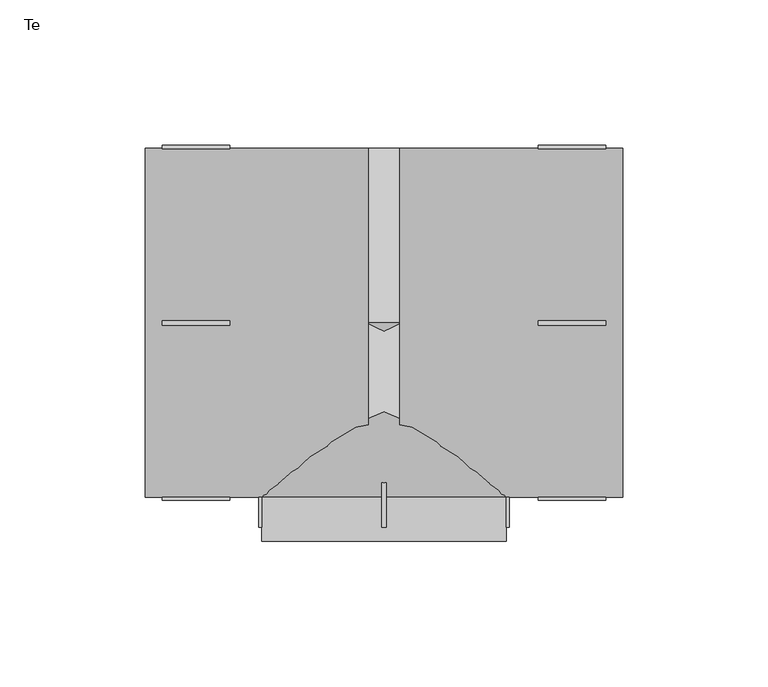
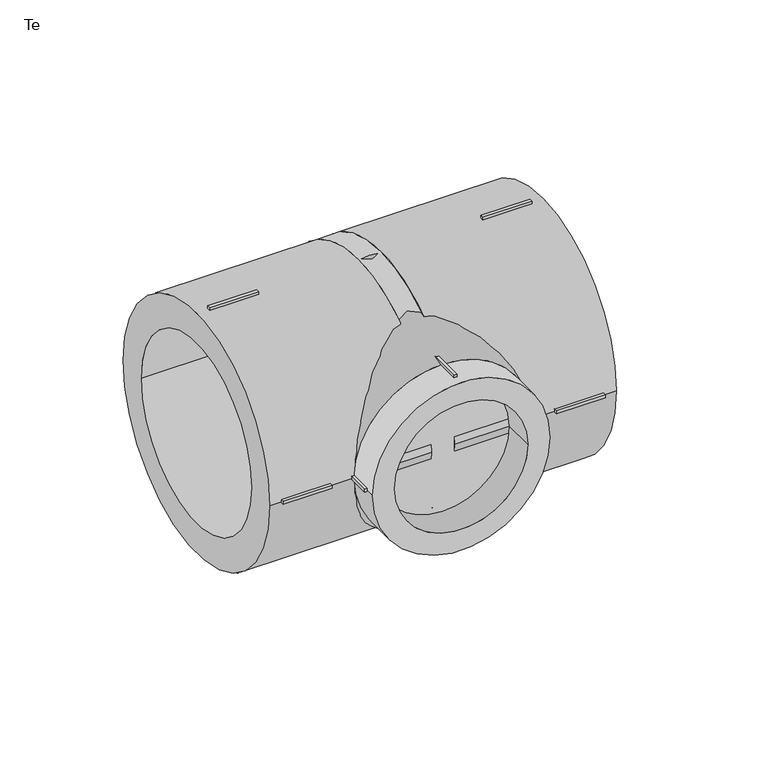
"""IFC4 building model written with IfcOpenShell, lengths in millimetres: pipe fitting geometry, EGB_VASEN_ PPR_Te WXR300_Te reducida WXR310 : Te."""

import ifcopenshell
import ifcopenshell.guid

model = None  # the IFC model being written
_history = None  # IfcOwnerHistory: only IFC2X3 demands one
_inside = {}  # id of a spatial element -> (the spatial element, [elements in it])
_under = {}  # id of a project, library or spatial element -> (it, [spatial elements below it])
_declared = {}  # id of a project -> (the project, [libraries it declares])
_typed = {}  # id of a type object -> (the type object, [elements of that type])
_made_of = {}  # id of a material, layer set ... -> (it, [elements and type objects made of it])


def new_model(schema):
    """Start an empty IFC model of exactly this schema.

    Asked for "IFC4X3", IfcOpenShell would pick the latest addendum, in which some entities
    have other attributes; the version numbers below select the first issue.
    IFC2X3 requires an IfcOwnerHistory on every rooted entity: one is made here for all.
    """
    global model, _history
    if schema == "IFC4X3":
        model = ifcopenshell.file(schema_version=(4, 3, 0, 0))
    else:
        model = ifcopenshell.file(schema=schema)
    _inside.clear()
    _under.clear()
    _declared.clear()
    _typed.clear()
    _made_of.clear()
    _history = None
    if model.schema == "IFC2X3":
        org = make("IfcOrganization", Name="unknown")
        user = make(
            "IfcPersonAndOrganization",
            ThePerson=make("IfcPerson", FamilyName="unknown"),
            TheOrganization=org,
        )
        app = make(
            "IfcApplication",
            ApplicationDeveloper=org,
            Version="unknown",
            ApplicationFullName="unknown",
            ApplicationIdentifier="unknown",
        )
        _history = make(
            "IfcOwnerHistory",
            OwningUser=user,
            OwningApplication=app,
            ChangeAction="ADDED",
            CreationDate=0,
        )
    return model


def make(cls, **values):
    """One entity of the class cls with the attributes given. An attribute that is None is left unset."""
    return model.create_entity(
        cls, **{name: value for name, value in values.items() if value is not None}
    )


def rooted(cls, **values):
    """An entity with a GlobalId (a new one), such as an element, a storey or a relation."""
    return make(cls, GlobalId=ifcopenshell.guid.new(), OwnerHistory=_history, **values)


def si_unit(unit_type, name, prefix=None):
    """IfcSIUnit, for example si_unit("LENGTHUNIT", "METRE", prefix="MILLI")."""
    return make("IfcSIUnit", UnitType=unit_type, Prefix=prefix, Name=name)


def assignment(units):
    """IfcUnitAssignment: the units of a project."""
    return None if units is None else make("IfcUnitAssignment", Units=units)


def point(xyz):
    """IfcCartesianPoint."""
    return None if xyz is None else make("IfcCartesianPoint", Coordinates=xyz)


def direction(xyz):
    """IfcDirection."""
    return None if xyz is None else make("IfcDirection", DirectionRatios=xyz)


def frame(location, z_axis=None, x_axis=None):
    """IfcAxis2Placement3D, a coordinate frame: its origin and axes. An axis left out is left unset."""
    return make(
        "IfcAxis2Placement3D",
        Location=point(location),
        Axis=direction(z_axis),
        RefDirection=direction(x_axis),
    )


def frame_2d(location, x_axis=None):
    """IfcAxis2Placement2D, a coordinate frame in the plane: its origin and x axis."""
    return make(
        "IfcAxis2Placement2D", Location=point(location), RefDirection=direction(x_axis)
    )


def origin():
    """The frame at (0, 0, 0) with its axes left unset."""
    return frame((0.0, 0.0, 0.0))


def origin_2d():
    """The frame at (0, 0) in the plane with its x axis left unset."""
    return frame_2d((0.0, 0.0))


def place(relative_to, where):
    """IfcLocalPlacement: puts the frame where relative to a parent placement (None: the world)."""
    return make(
        "IfcLocalPlacement", PlacementRelTo=relative_to, RelativePlacement=where
    )


def context(
    kind, dimensions, precision=None, world=None, true_north=None, identifier=None
):
    """IfcGeometricRepresentationContext, for example the 3D "Model" context."""
    return make(
        "IfcGeometricRepresentationContext",
        ContextIdentifier=identifier,
        ContextType=kind,
        CoordinateSpaceDimension=dimensions,
        Precision=precision,
        WorldCoordinateSystem=world,
        TrueNorth=true_north,
    )


def project(units=None, contexts=None):
    """IfcProject with its units and contexts."""
    return rooted(
        "IfcProject",
        Name="project",
        RepresentationContexts=contexts,
        UnitsInContext=assignment(units),
    )


def spatial(cls, under=None, at=None, **own):
    """A site, building, storey or space (cls), placed at a placement, below another one or the project."""
    s = rooted(cls, ObjectPlacement=at, **own)
    if under is not None:
        _under.setdefault(under.id(), (under, []))[1].append(s)
    return s


def polyline(points):
    """IfcPolyline through the points."""
    return make("IfcPolyline", Points=[point(p) for p in points])


def circle_curve(where, radius):
    """IfcCircle in the frame where."""
    return make("IfcCircle", Position=where, Radius=radius)


def trimmed(basis, trim1, trim2, sense, master):
    """IfcTrimmedCurve: the piece of a basis curve between two trims."""
    return make(
        "IfcTrimmedCurve",
        BasisCurve=basis,
        Trim1=trim1,
        Trim2=trim2,
        SenseAgreement=sense,
        MasterRepresentation=master,
    )


def segment(curve, same_sense, transition):
    """IfcCompositeCurveSegment."""
    return make(
        "IfcCompositeCurveSegment",
        Transition=transition,
        SameSense=same_sense,
        ParentCurve=curve,
    )


def composite_curve(segments, self_intersect=None):
    """IfcCompositeCurve: segments joined end to end."""
    return make("IfcCompositeCurve", Segments=segments, SelfIntersect=self_intersect)


def outline(outer, holes=None, kind="AREA"):
    """IfcArbitraryClosedProfileDef: a profile drawn as a closed curve; with holes, ...WithVoids."""
    if holes is None:
        return make("IfcArbitraryClosedProfileDef", ProfileType=kind, OuterCurve=outer)
    return make(
        "IfcArbitraryProfileDefWithVoids",
        ProfileType=kind,
        OuterCurve=outer,
        InnerCurves=holes,
    )


def extrude(swept, where, along, depth):
    """IfcExtrudedAreaSolid: the profile swept, set in the frame where, extruded along a direction by depth."""
    return make(
        "IfcExtrudedAreaSolid",
        SweptArea=swept,
        Position=where,
        ExtrudedDirection=direction(along),
        Depth=depth,
    )


def shape(context_of_items, identifier, shape_type, items):
    """IfcShapeRepresentation: the items that make up one representation, for example the "Body"."""
    return make(
        "IfcShapeRepresentation",
        ContextOfItems=context_of_items,
        RepresentationIdentifier=identifier,
        RepresentationType=shape_type,
        Items=items,
    )


def source(mapping_origin, context_of_items, identifier, shape_type, items):
    """IfcRepresentationMap: a shape defined once, which mapped items show again and again."""
    return make(
        "IfcRepresentationMap",
        MappingOrigin=mapping_origin,
        MappedRepresentation=shape(context_of_items, identifier, shape_type, items),
    )


def transform(
    local_origin,
    x_axis=None,
    y_axis=None,
    z_axis=None,
    scale=None,
    scale2=None,
    scale3=None,
    uniform=True,
):
    """IfcCartesianTransformationOperator3D, or its non-uniform kind. x_axis, y_axis, z_axis: its Axis1, 2, 3."""
    if uniform:
        return make(
            "IfcCartesianTransformationOperator3D",
            Axis1=direction(x_axis),
            Axis2=direction(y_axis),
            LocalOrigin=point(local_origin),
            Scale=scale,
            Axis3=direction(z_axis),
        )
    return make(
        "IfcCartesianTransformationOperator3DnonUniform",
        Axis1=direction(x_axis),
        Axis2=direction(y_axis),
        LocalOrigin=point(local_origin),
        Scale=scale,
        Axis3=direction(z_axis),
        Scale2=scale2,
        Scale3=scale3,
    )


def mapped(mapping_source, mapping_target):
    """IfcMappedItem: shows the shape of a source again, moved by a transform."""
    return make(
        "IfcMappedItem", MappingSource=mapping_source, MappingTarget=mapping_target
    )


def made_of(thing, what):
    """Note that an element or type object is made of a material, layer set ...; save() writes the relation."""
    if what is not None:
        _made_of.setdefault(what.id(), (what, []))[1].append(thing)
    return thing


def element(
    cls,
    number,
    at=None,
    inside=None,
    cuts=None,
    type_object=None,
    material=None,
    context=None,
    identifier="Body",
    shape_type=None,
    held_by="IfcProductDefinitionShape",
    body=None,
    shapes=None,
    **own,
):
    """One element of the class cls, such as IfcWall. Its Tag is "e" and its number.

    at: its placement. inside: the storey or other place that contains it. cuts: it is an
    opening in that element (IfcRelVoidsElement). A single representation is given by context,
    identifier, shape_type and body (its items); several are given by shapes. held_by: the class
    of the entity that holds the representations. save() writes the other relations.
    """
    e = rooted(cls, Tag="e%d" % number, ObjectPlacement=at, **own)
    if body is not None:
        shapes = [shape(context, identifier, shape_type, body)]
    if shapes is not None:
        e.Representation = make(held_by, Representations=shapes)
    if inside is not None:
        _inside.setdefault(inside.id(), (inside, []))[1].append(e)
    if cuts is not None:
        rooted(
            "IfcRelVoidsElement", RelatingBuildingElement=cuts, RelatedOpeningElement=e
        )
    if type_object is not None:
        _typed.setdefault(type_object.id(), (type_object, []))[1].append(e)
    return made_of(e, material)


def aggregate(whole, parts):
    """IfcRelAggregates: a whole, such as a stair, and the parts it consists of."""
    return rooted("IfcRelAggregates", RelatingObject=whole, RelatedObjects=parts)


def save(model, path):
    """Write the relations noted so far, then the file.

    IfcRelAggregates (storeys below a building ...), IfcRelContainedInSpatialStructure (elements
    in a storey), IfcRelDefinesByType, IfcRelAssociatesMaterial and IfcRelDeclares: one each for
    every whole, place, type object, material and project.
    """
    for whole, parts in _under.values():
        aggregate(whole, parts)
    for where, things in _inside.values():
        rooted(
            "IfcRelContainedInSpatialStructure",
            RelatedElements=things,
            RelatingStructure=where,
        )
    for kind, things in _typed.values():
        rooted("IfcRelDefinesByType", RelatedObjects=things, RelatingType=kind)
    for what, things in _made_of.values():
        rooted("IfcRelAssociatesMaterial", RelatedObjects=things, RelatingMaterial=what)
    for by, libraries in _declared.values():
        rooted("IfcRelDeclares", RelatingContext=by, RelatedDefinitions=libraries)
    model.write(path)


def plane_surface(at):
    """IfcPlane: the flat surface through the origin of the frame at, square to its z axis."""
    return make("IfcPlane", Position=at)


def revolved_surface(curve, axis_point, axis_direction):
    """IfcSurfaceOfRevolution: the curve turned about the line through axis_point along axis_direction."""
    return make(
        "IfcSurfaceOfRevolution",
        SweptCurve=make("IfcArbitraryOpenProfileDef", ProfileType="CURVE", Curve=curve),
        AxisPosition=make("IfcAxis1Placement", Location=point(axis_point), Axis=direction(axis_direction)),
    )


def advanced_brep(points, edges, surfaces, faces):
    """IfcAdvancedBrep: a solid bounded by faces that lie on surfaces and meet in shared edges.

    An edge is (start, end): straight between two places in points (the first is 0);
    or (start, end, curve); or (start, end, curve, False) where it runs against its curve.
    A face is (place in surfaces, loops), or (place, loops, False) where it looks against
    its surface's normal. A loop lists edges by number (the first is 1), with a minus sign
    where the edge is run from its end to its start. The first loop is the outer one.
    """
    corners = [point(p) for p in points]
    vertices = [make("IfcVertexPoint", VertexGeometry=c) for c in corners]
    made = []
    for start, end, *more in edges:
        made.append(
            make(
                "IfcEdgeCurve",
                EdgeStart=vertices[start],
                EdgeEnd=vertices[end],
                EdgeGeometry=more[0] if more else make("IfcPolyline", Points=[corners[start], corners[end]]),
                SameSense=more[1] if len(more) > 1 else True,
            )
        )
    hull = []
    for where, loops, *sense in faces:
        bounds = []
        for j, loop in enumerate(loops):
            ring = [make("IfcOrientedEdge", EdgeElement=made[abs(k) - 1], Orientation=k > 0) for k in loop]
            bounds.append(
                make(
                    "IfcFaceOuterBound" if j == 0 else "IfcFaceBound",
                    Bound=make("IfcEdgeLoop", EdgeList=ring),
                    Orientation=True,
                )
            )
        hull.append(make("IfcAdvancedFace", Bounds=bounds, FaceSurface=surfaces[where], SameSense=sense[0] if sense else True))
    return make("IfcAdvancedBrep", Outer=make("IfcClosedShell", CfsFaces=hull))


def te_87216038(model_context):
    return source(origin(), model_context, "Body", "SolidModel", [
        extrude(outline(polyline([(-0.75, -51.0), (0.75, -51.0), (0.75, -70.2), (-0.75, -70.2), (-0.75, -51.0)])), frame((0.0, 0.0, 41.0), z_axis=(0.0, 0.0, 1.0), x_axis=(1.0, 0.0, 0.0)), (0.0, 0.0, 1.0), 2.0),
        extrude(outline(polyline([(-0.75, -51.0), (0.75, -51.0), (0.75, -70.2), (-0.75, -70.2), (-0.75, -51.0)])), frame((0.0, 0.0, -43.0), z_axis=(0.0, 0.0, 1.0), x_axis=(1.0, 0.0, 0.0)), (0.0, 0.0, 1.0), 2.0),
        extrude(outline(polyline([(41.0, -51.0), (43.0, -51.0), (43.0, -70.2), (41.0, -70.2), (41.0, -51.0)])), frame((0.0, 0.0, -0.75), z_axis=(0.0, 0.0, 1.0), x_axis=(1.0, 0.0, 0.0)), (0.0, 0.0, 1.0), 1.5),
        extrude(outline(polyline([(-43.0, -51.0), (-41.0, -51.0), (-41.0, -70.2), (-43.0, -70.2), (-43.0, -51.0)])), frame((0.0, 0.0, -0.75), z_axis=(0.0, 0.0, 1.0), x_axis=(1.0, 0.0, 0.0)), (0.0, 0.0, 1.0), 1.5),
        extrude(outline(polyline([(53.0, -0.75), (53.0, 0.75), (76.2, 0.75), (76.2, -0.75), (53.0, -0.75)])), frame((0.0, 0.0, 59.0), z_axis=(0.0, 0.0, 1.0), x_axis=(1.0, 0.0, 0.0)), (0.0, 0.0, 1.0), 2.0),
        extrude(outline(polyline([(53.0, -0.75), (53.0, 0.75), (76.2, 0.75), (76.2, -0.75), (53.0, -0.75)])), frame((0.0, 0.0, -61.0), z_axis=(0.0, 0.0, 1.0), x_axis=(1.0, 0.0, 0.0)), (0.0, 0.0, 1.0), 2.0),
        extrude(outline(polyline([(53.0, 59.0), (53.0, 61.0), (76.2, 61.0), (76.2, 59.0), (53.0, 59.0)])), frame((0.0, 0.0, -0.75), z_axis=(0.0, 0.0, 1.0), x_axis=(1.0, 0.0, 0.0)), (0.0, 0.0, 1.0), 1.5),
        extrude(outline(polyline([(53.0, -61.0), (53.0, -59.0), (76.2, -59.0), (76.2, -61.0), (53.0, -61.0)])), frame((0.0, 0.0, -0.75), z_axis=(0.0, 0.0, 1.0), x_axis=(1.0, 0.0, 0.0)), (0.0, 0.0, 1.0), 1.5),
        extrude(outline(polyline([(-53.0, 0.75), (-53.0, -0.75), (-76.2, -0.75), (-76.2, 0.75), (-53.0, 0.75)])), frame((0.0, 0.0, 59.0), z_axis=(0.0, 0.0, 1.0), x_axis=(1.0, 0.0, 0.0)), (0.0, 0.0, 1.0), 2.0),
        extrude(outline(polyline([(-53.0, 0.75), (-53.0, -0.75), (-76.2, -0.75), (-76.2, 0.75), (-53.0, 0.75)])), frame((0.0, 0.0, -61.0), z_axis=(0.0, 0.0, 1.0), x_axis=(1.0, 0.0, 0.0)), (0.0, 0.0, 1.0), 2.0),
        extrude(outline(polyline([(-53.0, 61.0), (-53.0, 59.0), (-76.2, 59.0), (-76.2, 61.0), (-53.0, 61.0)])), frame((0.0, 0.0, -0.75), z_axis=(0.0, 0.0, 1.0), x_axis=(1.0, 0.0, 0.0)), (0.0, 0.0, 1.0), 1.5),
        extrude(outline(polyline([(-53.0, -59.0), (-53.0, -61.0), (-76.2, -61.0), (-76.2, -59.0), (-53.0, -59.0)])), frame((0.0, 0.0, -0.75), z_axis=(0.0, 0.0, 1.0), x_axis=(1.0, 0.0, 0.0)), (0.0, 0.0, 1.0), 1.5),
        extrude(outline(composite_curve([segment(trimmed(circle_curve(origin_2d(), 42.0), [point((0.0, 42.0))], [point((0.0, -42.0))], False, "CARTESIAN"), True, "CONTINUOUS"), segment(trimmed(circle_curve(origin_2d(), 42.0), [point((0.0, -42.0))], [point((0.0, 42.0))], False, "CARTESIAN"), True, "CONTINUOUS")], self_intersect=False), holes=[composite_curve([segment(trimmed(circle_curve(origin_2d(), 31.5), [point((0.0, 31.5))], [point((0.0, -31.5))], True, "CARTESIAN"), True, "CONTINUOUS"), segment(trimmed(circle_curve(origin_2d(), 31.5), [point((0.0, -31.5))], [point((0.0, 31.5))], True, "CARTESIAN"), True, "CONTINUOUS")], self_intersect=False)]), frame((0.0, -75.0, 0.0), z_axis=(0.0, 1.0, 0.0), x_axis=(0.0, 0.0, 1.0)), (0.0, 0.0, 1.0), 15.0),
        extrude(outline(composite_curve([segment(trimmed(circle_curve(origin_2d(), 60.0), [point((-60.0, 0.0))], [point((60.0, 0.0))], False, "CARTESIAN"), True, "CONTINUOUS"), segment(trimmed(circle_curve(origin_2d(), 60.0), [point((60.0, 0.0))], [point((-60.0, 0.0))], False, "CARTESIAN"), True, "CONTINUOUS")], self_intersect=False), holes=[composite_curve([segment(trimmed(circle_curve(origin_2d(), 45.0), [point((-45.0, 0.0))], [point((45.0, 0.0))], True, "CARTESIAN"), True, "CONTINUOUS"), segment(trimmed(circle_curve(origin_2d(), 45.0), [point((45.0, 0.0))], [point((-45.0, 0.0))], True, "CARTESIAN"), True, "CONTINUOUS")], self_intersect=False)]), frame((5.48, 0.0, 0.0), z_axis=(1.0, 0.0, 0.0), x_axis=(0.0, 1.0, 0.0)), (0.0, 0.0, 1.0), 76.52),
        extrude(outline(composite_curve([segment(trimmed(circle_curve(origin_2d(), 60.0), [point((-60.0, 0.0))], [point((60.0, 0.0))], False, "CARTESIAN"), True, "CONTINUOUS"), segment(trimmed(circle_curve(origin_2d(), 60.0), [point((60.0, 0.0))], [point((-60.0, 0.0))], False, "CARTESIAN"), True, "CONTINUOUS")], self_intersect=False), holes=[composite_curve([segment(trimmed(circle_curve(origin_2d(), 45.0), [point((-45.0, 0.0))], [point((45.0, 0.0))], True, "CARTESIAN"), True, "CONTINUOUS"), segment(trimmed(circle_curve(origin_2d(), 45.0), [point((45.0, 0.0))], [point((-45.0, 0.0))], True, "CARTESIAN"), True, "CONTINUOUS")], self_intersect=False)]), frame((-82.0, 0.0, 0.0), z_axis=(1.0, 0.0, 0.0), x_axis=(0.0, 1.0, 0.0)), (0.0, 0.0, 1.0), 76.52),
        advanced_brep(
        [(60.0, 0.0, 0.0), (-60.0, 0.0, 0.0), (42.0, -60.0, 0.0), (-42.0, -60.0, 0.0)],
        [
            (0, 1, circle_curve(frame((0.0, 0.0, 0.0), z_axis=(0.0, 1.0, 0.0), x_axis=(1.0, 0.0, 0.0)), 60.0)),
            (1, 0, circle_curve(frame((0.0, 0.0, 0.0), z_axis=(0.0, 1.0, 0.0), x_axis=(-1.0, 0.0, 0.0)), 60.0)),
            (2, 3, circle_curve(frame((0.0, -60.0, 0.0), z_axis=(0.0, -1.0, 0.0), x_axis=(-1.0, 0.0, 0.0)), 42.0)),
            (3, 2, circle_curve(frame((0.0, -60.0, 0.0), z_axis=(0.0, -1.0, 0.0), x_axis=(1.0, 0.0, 0.0)), 42.0)),
            (3, 1),
            (0, 2),
        ],
        [
            plane_surface(frame((0.0, 0.0, 0.0), z_axis=(0.0, 1.0, 0.0), x_axis=(0.0, 0.0, -1.0))),
            plane_surface(frame((0.0, -60.0, 0.0), z_axis=(0.0, -1.0, 0.0), x_axis=(0.0, 0.0, -1.0))),
            revolved_surface(polyline([(-42.0, -60.0, 0.0), (-60.0, 0.0, 0.0)]), (0.0, -200.0, 0.0), (0.0, 1.0, 0.0)),
            revolved_surface(polyline([(42.0, -60.0, 0.0), (60.0, 0.0, 0.0)]), (0.0, -200.0, 0.0), (0.0, 1.0, 0.0)),
        ],
        [
            (0, [[1, 2]]),
            (1, [[3, 4]]),
            (2, [[-4, 5, -1, 6]]),
            (3, [[-3, -6, -2, -5]]),
        ],
    ),
        extrude(outline(composite_curve([segment(trimmed(circle_curve(origin_2d(), 60.0), [point((-60.0, 0.0))], [point((60.0, 0.0))], False, "CARTESIAN"), True, "CONTINUOUS"), segment(trimmed(circle_curve(origin_2d(), 60.0), [point((60.0, 0.0))], [point((-60.0, 0.0))], False, "CARTESIAN"), True, "CONTINUOUS")], self_intersect=False)), frame((-5.48, 0.0, 0.0), z_axis=(1.0, 0.0, 0.0), x_axis=(0.0, 1.0, 0.0)), (0.0, 0.0, 1.0), 10.96),
    ])


if __name__ == "__main__":
    model = new_model("IFC4")
    model_context = context("Model", 3, world=origin())
    ifc_project = project(units=[si_unit("LENGTHUNIT", "METRE", prefix="MILLI")], contexts=[model_context])
    site = spatial("IfcSite", under=ifc_project)
    building = spatial("IfcBuilding", under=site)
    placement = place(None, origin())
    te_shape = te_87216038(model_context)
    element("IfcPipeFitting", 1, ObjectType="EGB_VASEN_ PPR_Te WXR300_Te reducida WXR310 : Te", at=placement, inside=building, context=model_context, shape_type="MappedRepresentation", body=[
        mapped(te_shape, transform((0.0, 0.0, 0.0), x_axis=(1.0, 0.0, 0.0), y_axis=(0.0, 1.0, 0.0), z_axis=(0.0, 0.0, 1.0))),
    ])
    save(model, "model.ifc")
